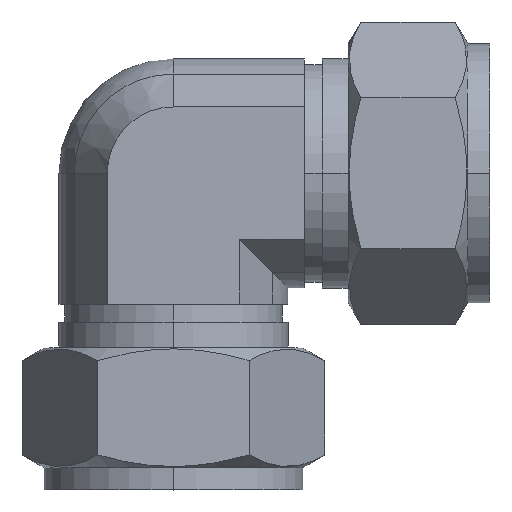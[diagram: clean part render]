
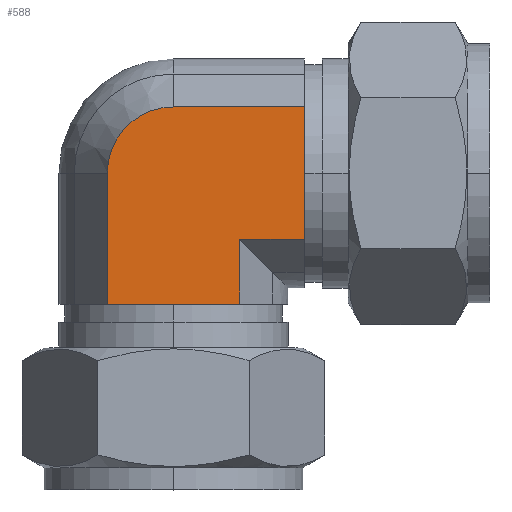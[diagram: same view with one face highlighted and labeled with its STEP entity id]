
A CAD part, top view. The second image highlights one B-rep face of the part: STEP entity #588.
In plain terms, the highlighted planar face has unit normal (0, 0, 1).
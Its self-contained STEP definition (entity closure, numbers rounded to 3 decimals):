
#95 = VERTEX_POINT ( 'NONE', #1091 ) ;
#96 = VERTEX_POINT ( 'NONE', #1090 ) ;
#110 = EDGE_CURVE ( 'NONE', #96, #95, #1127, .T. ) ;
#434 = EDGE_LOOP ( 'NONE', ( #435, #436, #439, #442, #445, #542, #544 ) ) ;
#435 = ORIENTED_EDGE ( 'NONE', *, *, #110, .T. ) ;
#436 = ORIENTED_EDGE ( 'NONE', *, *, #437, .F. ) ;
#437 = EDGE_CURVE ( 'NONE', #438, #95, #1673, .T. ) ;
#438 = VERTEX_POINT ( 'NONE', #1665 ) ;
#439 = ORIENTED_EDGE ( 'NONE', *, *, #440, .F. ) ;
#440 = EDGE_CURVE ( 'NONE', #441, #438, #1880, .T. ) ;
#441 = VERTEX_POINT ( 'NONE', #1876 ) ;
#442 = ORIENTED_EDGE ( 'NONE', *, *, #443, .T. ) ;
#443 = EDGE_CURVE ( 'NONE', #441, #444, #1875, .T. ) ;
#444 = VERTEX_POINT ( 'NONE', #1871 ) ;
#445 = ORIENTED_EDGE ( 'NONE', *, *, #446, .F. ) ;
#446 = EDGE_CURVE ( 'NONE', #447, #444, #1870, .T. ) ;
#447 = VERTEX_POINT ( 'NONE', #1865 ) ;
#448 = VERTEX_POINT ( 'NONE', #1864 ) ;
#542 = ORIENTED_EDGE ( 'NONE', *, *, #543, .F. ) ;
#543 = EDGE_CURVE ( 'NONE', #448, #447, #1987, .T. ) ;
#544 = ORIENTED_EDGE ( 'NONE', *, *, #545, .F. ) ;
#545 = EDGE_CURVE ( 'NONE', #96, #448, #1983, .T. ) ;
#588 = ADVANCED_FACE ( 'NONE', ( #1934 ), #1933, .F. ) ;
#1090 = CARTESIAN_POINT ( 'NONE',  ( 9.613, -19.05, 16.65 ) ) ;
#1091 = CARTESIAN_POINT ( 'NONE',  ( 9.613, -9.613, 16.65 ) ) ;
#1114 = DIRECTION ( 'NONE',  ( 0., 1., 0. ) ) ;
#1115 = VECTOR ( 'NONE', #1114, 1000. ) ;
#1116 = CARTESIAN_POINT ( 'NONE',  ( 9.613, -19.05, 16.65 ) ) ;
#1127 = LINE ( 'NONE', #1116, #1115 ) ;
#1665 = CARTESIAN_POINT ( 'NONE',  ( 19.05, -9.613, 16.65 ) ) ;
#1666 = DIRECTION ( 'NONE',  ( -1., 0., 0. ) ) ;
#1667 = VECTOR ( 'NONE', #1666, 1000. ) ;
#1668 = CARTESIAN_POINT ( 'NONE',  ( 19.05, -9.613, 16.65 ) ) ;
#1673 = LINE ( 'NONE', #1668, #1667 ) ;
#1864 = CARTESIAN_POINT ( 'NONE',  ( -9.613, -19.05, 16.65 ) ) ;
#1865 = CARTESIAN_POINT ( 'NONE',  ( -9.613, 0., 16.65 ) ) ;
#1866 = DIRECTION ( 'NONE',  ( 0., 1., 0. ) ) ;
#1867 = DIRECTION ( 'NONE',  ( 0., 0., -1. ) ) ;
#1868 = CARTESIAN_POINT ( 'NONE',  ( 0., 0., 16.65 ) ) ;
#1869 = AXIS2_PLACEMENT_3D ( 'NONE', #1868, #1867, #1866 ) ;
#1870 = CIRCLE ( 'NONE', #1869, 9.613 ) ;
#1871 = CARTESIAN_POINT ( 'NONE',  ( 0., 9.613, 16.65 ) ) ;
#1872 = DIRECTION ( 'NONE',  ( -1., 0., 0. ) ) ;
#1873 = VECTOR ( 'NONE', #1872, 1000. ) ;
#1874 = CARTESIAN_POINT ( 'NONE',  ( 19.05, 9.613, 16.65 ) ) ;
#1875 = LINE ( 'NONE', #1874, #1873 ) ;
#1876 = CARTESIAN_POINT ( 'NONE',  ( 19.05, 9.613, 16.65 ) ) ;
#1877 = DIRECTION ( 'NONE',  ( 0., -1., 0. ) ) ;
#1878 = VECTOR ( 'NONE', #1877, 1000. ) ;
#1879 = CARTESIAN_POINT ( 'NONE',  ( 19.05, 9.613, 16.65 ) ) ;
#1880 = LINE ( 'NONE', #1879, #1878 ) ;
#1928 = DIRECTION ( 'NONE',  ( 1., 0., 0. ) ) ;
#1929 = DIRECTION ( 'NONE',  ( 0., 0., -1. ) ) ;
#1930 = AXIS2_PLACEMENT_3D ( 'NONE', #1932, #1929, #1928 ) ;
#1932 = CARTESIAN_POINT ( 'NONE',  ( 9.613, -19.05, 16.65 ) ) ;
#1933 = PLANE ( 'NONE',  #1930 ) ;
#1934 = FACE_OUTER_BOUND ( 'NONE', #434, .T. ) ;
#1980 = DIRECTION ( 'NONE',  ( -1., 0., 0. ) ) ;
#1981 = VECTOR ( 'NONE', #1980, 1000. ) ;
#1982 = CARTESIAN_POINT ( 'NONE',  ( 9.613, -19.05, 16.65 ) ) ;
#1983 = LINE ( 'NONE', #1982, #1981 ) ;
#1984 = DIRECTION ( 'NONE',  ( 0., 1., 0. ) ) ;
#1985 = VECTOR ( 'NONE', #1984, 1000. ) ;
#1986 = CARTESIAN_POINT ( 'NONE',  ( -9.613, -19.05, 16.65 ) ) ;
#1987 = LINE ( 'NONE', #1986, #1985 ) ;
